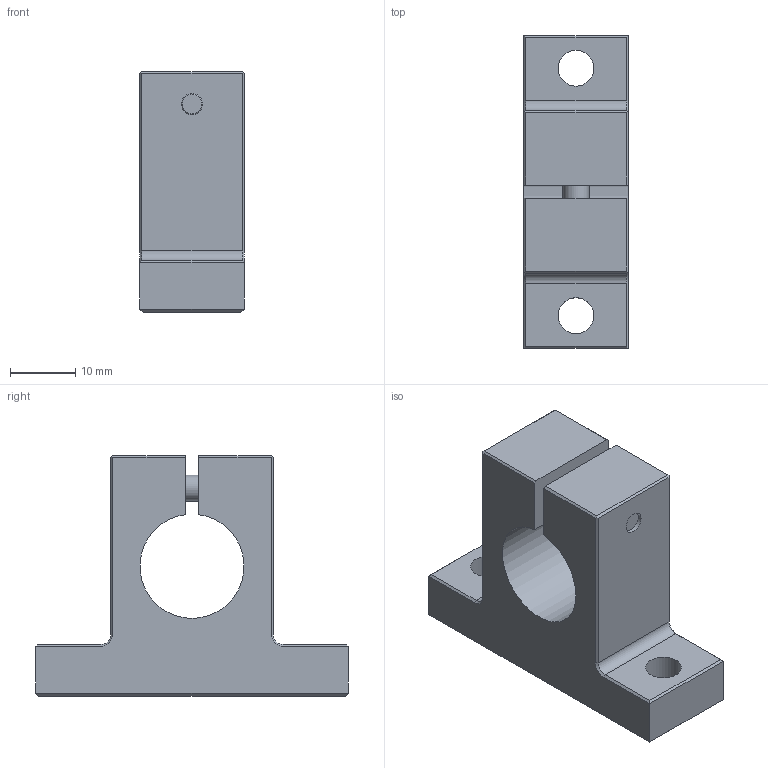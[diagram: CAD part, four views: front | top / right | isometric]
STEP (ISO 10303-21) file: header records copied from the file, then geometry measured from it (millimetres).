
FILE_DESCRIPTION((''),'2;1');
FILE_NAME('D:\製品 (図面)\カタログ用3D\シャフトブロック関連\STEP形式\SHA\SHA16.stp','2010-06-01T16:37:09',('Tsuchiya'),(''),'Autodesk Inventor 10','Autodesk Inventor 10','');
FILE_SCHEMA(('AUTOMOTIVE_DESIGN { 1 0 10303 214 1 1 1 1 }'));
Length unit declared in the file: millimetre
Products named in the file (1): SHA16
Bounding box: 16 x 48 x 37 mm (x, y, z)
Volume: 13760 mm3; surface area: 6027.3 mm2
Topology: 1 solids, 1 shells, 60 faces, 147 edges, 93 vertices
Faces by surface type: plane 42, cylinder 7, cone 6, bspline 4, torus 1
Full cylindrical faces by diameter (mm): 4 x1, 5.5 x2, 7 x1
Entity records: 1710 total; most frequent: CARTESIAN_POINT 347, DIRECTION 266, ORIENTED_EDGE 264, EDGE_CURVE 132, VECTOR 100, LINE 100, VERTEX_POINT 88, AXIS2_PLACEMENT_3D 83
